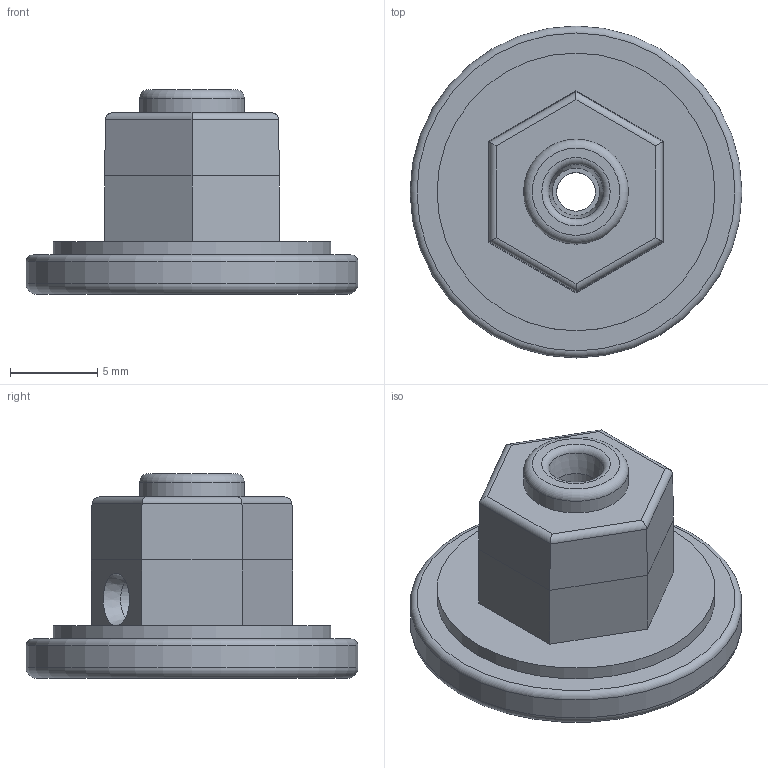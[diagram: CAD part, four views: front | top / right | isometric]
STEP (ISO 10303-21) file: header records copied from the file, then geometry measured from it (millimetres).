
FILE_DESCRIPTION(/* description */ (''),/* implementation_level */ '2;1');
FILE_NAME(/* name */ 'G:\~~Autodesk Inventor File Backup~~\Wolverine Parts by Kamel Ikhlef\My Inventor Drawn Telecine Parts\My USED STP Files\Back_Pulley_Capstan_S8_Hexagonal_NO Brass Inserts_Tapered_Hex.stp',/* time_stamp */ '2020-02-16T20:23:21+11:00',/* author */ ('bruce'),/* organization */ (''),/* preprocessor_version */ 'ST-DEVELOPER v17.2',/* originating_system */ 'Autodesk Inventor 2019',/* authorisation */ '');
FILE_SCHEMA (('AUTOMOTIVE_DESIGN { 1 0 10303 214 3 1 1 }'));
Length unit declared in the file: millimetre
Products named in the file (1): Back_Pulley_Capstan_S8_Hexagonal_NO Brass Inserts_Tapered_Hex
Bounding box: 19 x 19 x 11.7 mm (x, y, z)
Volume: 1373.9 mm3; surface area: 1082.4 mm2
Topology: 1 solids, 1 shells, 39 faces, 90 edges, 56 vertices
Faces by surface type: plane 20, cylinder 12, torus 5, cone 2
Full cylindrical faces by diameter (mm): 2.21 x1, 2.5 x1, 2.725 x1, 6 x1, 15.9 x1, 19 x1
Entity records: 1180 total; most frequent: CARTESIAN_POINT 212, DIRECTION 209, ORIENTED_EDGE 180, EDGE_CURVE 90, AXIS2_PLACEMENT_3D 81, VERTEX_POINT 56, LINE 47, VECTOR 47
